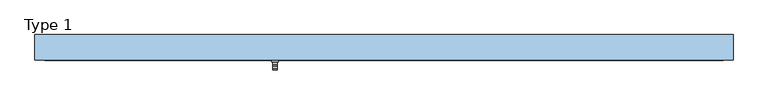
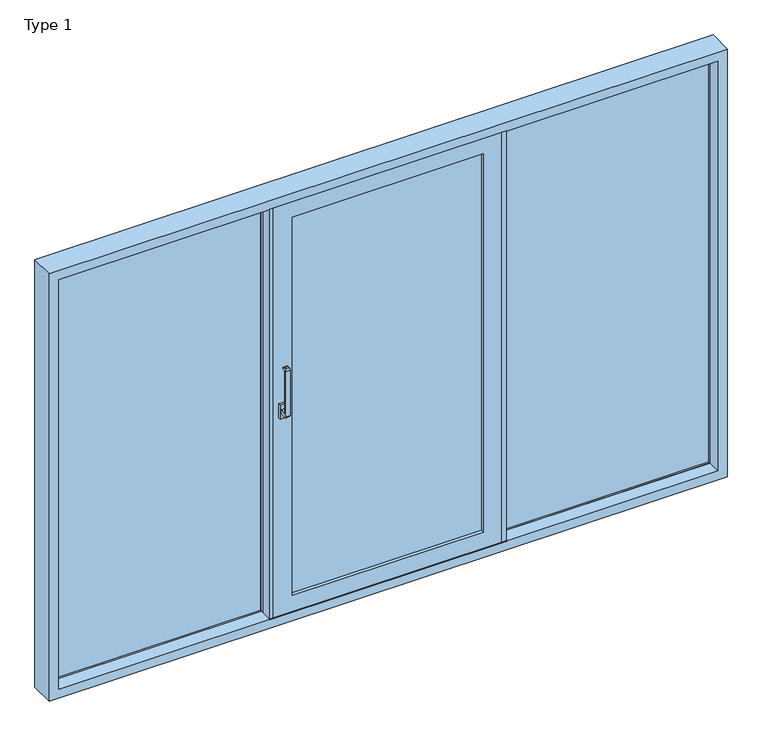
"""IFC4 building model written with IfcOpenShell, lengths in millimetres: window geometry, ETEM_E50_Triple_Lift_Fixed-Sliding-Fixed_HT : Type 1."""

from ifc_helpers import new_model, si_unit, point, frame, frame_2d, origin, place, context, project, spatial, polyline, circle_curve, trimmed, segment, composite_curve, outline, extrude, faceted_brep, source, transform, mapped, element, save


def type_1_260a64b6(model_context):
    return source(origin(), model_context, "Body", "SolidModel", [
        extrude(outline(composite_curve([segment(polyline([(-23.0, 1090.0), (-54.5736848, 1090.0)]), True, "CONTINUOUS"), segment(trimmed(circle_curve(frame_2d((-54.5736848, 1098.4263152)), 8.4263152), [point((-54.5736848, 1090.0))], [point((-63.0, 1098.4263152))], False, "CARTESIAN"), True, "CONTINUOUS"), segment(polyline([(-63.0, 1098.4263152), (-63.0, 1331.5736848)]), True, "CONTINUOUS"), segment(trimmed(circle_curve(frame_2d((-54.5736848, 1331.5736848)), 8.4263152), [point((-63.0, 1331.5736848))], [point((-54.5736848, 1340.0))], False, "CARTESIAN"), True, "CONTINUOUS"), segment(polyline([(-54.5736848, 1340.0), (-43.0, 1340.0)]), True, "CONTINUOUS"), segment(trimmed(circle_curve(frame_2d((-43.0, 1335.0)), 5.0), [point((-43.0, 1340.0))], [point((-43.0, 1330.0))], False, "CARTESIAN"), True, "CONTINUOUS"), segment(polyline([(-43.0, 1330.0), (-49.4644661, 1330.0)]), True, "CONTINUOUS"), segment(trimmed(circle_curve(frame_2d((-49.4644661, 1326.4644661)), 3.5355339), [point((-49.4644661, 1330.0))], [point((-53.0, 1326.4644661))], True, "CARTESIAN"), True, "CONTINUOUS"), segment(polyline([(-53.0, 1326.4644661), (-53.0, 1113.5355339)]), True, "CONTINUOUS"), segment(trimmed(circle_curve(frame_2d((-49.4644661, 1113.5355339)), 3.5355339), [point((-53.0, 1113.5355339))], [point((-49.4644661, 1110.0))], True, "CARTESIAN"), True, "CONTINUOUS"), segment(polyline([(-49.4644661, 1110.0), (-23.0, 1110.0), (-23.0, 1090.0)]), True, "CONTINUOUS")], self_intersect=False)), frame((-525.5005038, 0.0, 0.0), z_axis=(1.0, 0.0, 0.0), x_axis=(0.0, 1.0, 0.0)), (0.0, 0.0, 1.0), 20.0),
        extrude(outline(polyline([(-530.5005038, -23.0), (-530.5005038, -10.0), (-500.5005038, -10.0), (-500.5005038, -23.0), (-530.5005038, -23.0)])), frame((0.0, 0.0, 1065.0), z_axis=(0.0, 0.0, 1.0), x_axis=(1.0, 0.0, 0.0)), (0.0, 0.0, 1.0), 70.0),
        extrude(outline(polyline([(576.5002567, -10.0), (556.0002567, -10.0), (556.0002567, 51.0), (576.5002567, 51.0), (576.5002567, -10.0)])), frame((0.0, 0.0, 36.0), z_axis=(0.0, 0.0, 1.0), x_axis=(1.0, 0.0, 0.0)), (0.0, 0.0, 1.0), 2128.0010079),
        extrude(outline(polyline([(464.5002567, 105.0), (485.0002567, 105.0), (485.0002567, 44.0), (464.5002567, 44.0), (464.5002567, 105.0)])), frame((0.0, 0.0, 46.0), z_axis=(0.0, 0.0, 1.0), x_axis=(1.0, 0.0, 0.0)), (0.0, 0.0, 1.0), 2108.0),
        extrude(outline(polyline([(576.5002567, 89.0390342), (1604.0, 89.0390342), (1604.0, 84.0390342), (576.5002567, 84.0390342), (576.5002567, 89.0390342)])), frame((0.0, 0.0, 46.0), z_axis=(0.0, 0.0, 1.0), x_axis=(1.0, 0.0, 0.0)), (0.0, 0.0, 1.0), 2108.0),
        extrude(outline(polyline([(576.5002567, 68.0390342), (1604.0, 68.0390342), (1604.0, 63.0390342), (576.5002567, 63.0390342), (576.5002567, 68.0390342)])), frame((0.0, 0.0, 46.0), z_axis=(0.0, 0.0, 1.0), x_axis=(1.0, 0.0, 0.0)), (0.0, 0.0, 1.0), 2108.0),
        extrude(outline(polyline([(-464.5005038, 32.0), (464.5002567, 32.0), (464.5002567, 27.0), (-464.5005038, 27.0), (-464.5005038, 32.0)])), frame((0.0, 0.0, 127.5), z_axis=(0.0, 0.0, 1.0), x_axis=(1.0, 0.0, 0.0)), (0.0, 0.0, 1.0), 1945.0010079),
        extrude(outline(polyline([(-464.5005038, 11.0), (464.5002567, 11.0), (464.5002567, 6.0), (-464.5005038, 6.0), (-464.5005038, 11.0)])), frame((0.0, 0.0, 127.5), z_axis=(0.0, 0.0, 1.0), x_axis=(1.0, 0.0, 0.0)), (0.0, 0.0, 1.0), 1945.0010079),
        faceted_brep([(464.5002567, -10.0, 2072.5010079), (464.5002567, 40.0, 2072.5010079), (464.5002567, 40.0, 127.5), (464.5002567, -10.0, 127.5), (-464.5005038, 40.0, 127.5), (-464.5005038, -10.0, 127.5), (-556.0005038, 40.0, 36.0), (-556.0005038, 40.0, 2164.0010079), (556.0002567, 40.0, 2164.0010079), (556.0002567, 40.0, 36.0), (-464.5005038, 40.0, 2072.5010079), (-464.5005038, -10.0, 2072.5010079), (556.0002567, -10.0, 36.0), (556.0002567, -10.0, 2164.0010079), (-556.0005038, -10.0, 2164.0010079), (-556.0005038, -10.0, 36.0), (556.0002567, -4.5, 2164.0010079), (556.0002567, -4.5, 36.0), (-556.0005038, -4.5, 36.0), (-556.0005038, -4.5, 2164.0010079), (526.8002567, -4.5, 65.2), (526.8002567, -4.5, 2134.8010079), (-526.8005038, -4.5, 2134.8010079), (-526.8005038, -4.5, 65.2), (526.8002567, 34.5, 2134.8010079), (526.8002567, 34.5, 65.2), (-526.8005038, 34.5, 65.2), (-526.8005038, 34.5, 2134.8010079), (556.0002567, 34.5, 36.0), (556.0002567, 34.5, 2164.0010079), (-556.0005038, 34.5, 2164.0010079), (-556.0005038, 34.5, 36.0)], [[[0, 1, 2, 3]], [[3, 2, 4, 5]], [[6, 7, 8, 9], [2, 1, 10, 4]], [[5, 4, 10, 11]], [[12, 13, 14, 15], [5, 11, 0, 3]], [[16, 13, 12, 17]], [[17, 12, 15, 18]], [[18, 15, 14, 19]], [[18, 19, 16, 17], [20, 21, 22, 23]], [[24, 21, 20, 25]], [[25, 20, 23, 26]], [[26, 23, 22, 27]], [[28, 29, 30, 31], [26, 27, 24, 25]], [[8, 29, 28, 9]], [[9, 28, 31, 6]], [[6, 31, 30, 7]], [[11, 10, 1, 0]], [[19, 14, 13, 16]], [[27, 22, 21, 24]], [[7, 30, 29, 8]]]),
        extrude(outline(polyline([(-1604.0, 89.0390342), (-576.5005038, 89.0390342), (-576.5005038, 84.0390342), (-1604.0, 84.0390342), (-1604.0, 89.0390342)])), frame((0.0, 0.0, 46.0), z_axis=(0.0, 0.0, 1.0), x_axis=(1.0, 0.0, 0.0)), (0.0, 0.0, 1.0), 2108.0),
        extrude(outline(polyline([(-1604.0, 68.0390342), (-576.5005038, 68.0390342), (-576.5005038, 63.0390342), (-1604.0, 63.0390342), (-1604.0, 68.0390342)])), frame((0.0, 0.0, 46.0), z_axis=(0.0, 0.0, 1.0), x_axis=(1.0, 0.0, 0.0)), (0.0, 0.0, 1.0), 2108.0),
        extrude(outline(polyline([(-556.0005038, -10.0), (-576.5005038, -10.0), (-576.5005038, 40.0), (-556.0005038, 40.0), (-556.0005038, -10.0)])), frame((0.0, 0.0, 36.0), z_axis=(0.0, 0.0, 1.0), x_axis=(1.0, 0.0, 0.0)), (0.0, 0.0, 1.0), 2128.0010079),
        extrude(outline(polyline([(-464.5005038, 105.0), (-464.5005038, 44.0), (-485.0005038, 44.0), (-485.0005038, 105.0), (-464.5005038, 105.0)])), frame((0.0, 0.0, 46.0), z_axis=(0.0, 0.0, 1.0), x_axis=(1.0, 0.0, 0.0)), (0.0, 0.0, 1.0), 2108.0),
        extrude(outline(polyline([(576.5002567, 105.0), (576.5002567, 55.0), (485.0002567, 55.0), (485.0002567, 60.5), (514.2002567, 60.5), (514.2002567, 99.5), (485.0002567, 99.5), (485.0002567, 105.0), (576.5002567, 105.0)])), frame((0.0, 0.0, 46.0), z_axis=(0.0, 0.0, 1.0), x_axis=(1.0, 0.0, 0.0)), (0.0, 0.0, 1.0), 2108.0),
        extrude(outline(polyline([(-576.5005038, 105.0), (-485.0005038, 105.0), (-485.0005038, 99.5), (-514.2005038, 99.5), (-514.2005038, 60.5), (-485.0005038, 60.5), (-485.0005038, 55.0), (-576.5005038, 55.0), (-576.5005038, 105.0)])), frame((0.0, 0.0, 46.0), z_axis=(0.0, 0.0, 1.0), x_axis=(1.0, 0.0, 0.0)), (0.0, 0.0, 1.0), 2108.0),
        faceted_brep([(1604.0, 55.0, 2154.0), (1604.0, 105.0, 2154.0), (1604.0, 105.0, 46.0), (1604.0, 55.0, 46.0), (1650.0, 105.0, 2200.0), (1650.0, 105.0, 0.0), (-1650.0, 105.0, 0.0), (-1650.0, 105.0, 2200.0), (-1604.0, 105.0, 2154.0), (-1604.0, 105.0, 46.0), (-1604.0, 55.0, 46.0), (-576.5005038, 55.0, 46.0), (-576.5005038, 51.0, 46.0), (-576.5005038, 44.0, 46.0), (576.5002567, 44.0, 46.0), (576.5002567, 51.0, 46.0), (576.5002567, 55.0, 46.0), (1631.7, 55.0, 18.3), (1631.7, 55.0, 2181.7), (-1631.7, 55.0, 2181.7), (-1631.7, 55.0, 18.3), (576.5002567, 55.0, 35.9989921), (-576.5005038, 55.0, 35.9989921), (-1604.0, 55.0, 2154.0), (-576.5005038, 55.0, 2154.0), (-576.5005038, 55.0, 2164.0010079), (576.5002567, 55.0, 2164.0010079), (576.5002567, 55.0, 2154.0), (1631.7, 19.5, 2181.7), (1631.7, 19.5, 18.3), (-1631.7, 19.5, 18.3), (-1631.7, 19.5, 2181.7), (1613.0, 19.5, 37.0), (1613.0, 19.5, 2163.0), (-1613.0, 19.5, 2163.0), (-1613.0, 19.5, 37.0), (1613.0, 31.0, 2163.0), (1613.0, 31.0, 37.0), (-1613.0, 31.0, 37.0), (-1613.0, 31.0, 2163.0), (-1605.0, 31.0, 2155.0), (-1605.0, 31.0, 45.0), (-576.5005038, 31.0, 45.0), (576.5002567, 31.0, 45.0), (1605.0, 31.0, 45.0), (1605.0, 31.0, 2155.0), (576.5002567, 31.0, 2155.0), (-576.5005038, 31.0, 2155.0), (-576.5005038, -1.0, 45.0), (576.5002567, -1.0, 45.0), (1613.0, -1.0, 37.0), (1613.0, -1.0, 2163.0), (-1613.0, -1.0, 2163.0), (-1613.0, -1.0, 37.0), (-1605.0, -1.0, 45.0), (-1605.0, -1.0, 2155.0), (-576.5005038, -1.0, 2155.0), (576.5002567, -1.0, 2155.0), (1605.0, -1.0, 2155.0), (1605.0, -1.0, 45.0), (1613.0, 10.5, 2163.0), (1613.0, 10.5, 37.0), (-1613.0, 10.5, 37.0), (1631.7, 10.5, 18.3), (1631.7, 10.5, 2181.7), (-1631.7, 10.5, 2181.7), (-1631.7, 10.5, 18.3), (-1613.0, 10.5, 2163.0), (1631.7, -12.0, 2181.7), (1631.7, -12.0, 18.3), (-1631.7, -12.0, 18.3), (-1631.7, -12.0, 2181.7), (-1605.0, -12.0, 2155.0), (-1605.0, -12.0, 45.0), (-576.5005038, -12.0, 45.0), (576.5002567, -12.0, 45.0), (1605.0, -12.0, 45.0), (1605.0, -12.0, 2155.0), (576.5002567, -12.0, 2155.0), (-576.5005038, -12.0, 2155.0), (-576.5005038, -15.6, 45.0), (576.5002567, -15.6, 45.0), (1650.0, -15.6, 0.0), (1650.0, -15.6, 2200.0), (-1650.0, -15.6, 2200.0), (-1650.0, -15.6, 0.0), (-576.5005038, -15.6, 46.5), (-1603.5, -15.6, 46.5), (-1603.5, -15.6, 2153.5), (-576.5005038, -15.6, 2153.5), (-576.5005038, -15.6, 2155.0), (576.5002567, -15.6, 2155.0), (576.5002567, -15.6, 2153.5), (1603.5, -15.6, 2153.5), (1603.5, -15.6, 46.5), (576.5002567, -15.6, 46.5), (576.5002567, 51.0, 2154.0), (576.5002567, 44.0, 2154.0), (-576.5005038, 44.0, 2154.0), (-576.5005038, 51.0, 2154.0), (576.5002567, 44.0, 2155.0), (576.5002567, 44.0, 2164.0010079), (-576.5005038, 44.0, 2164.0010079), (-576.5005038, 44.0, 2155.0), (-576.5005038, 44.0, 35.9989921), (-576.5005038, 44.0, 45.0), (-576.5005038, 46.4, 45.0), (-576.5005038, 46.4, 36.3), (-576.5005038, 51.0, 36.3), (-576.5005038, 51.0, 46.5), (576.5002567, 44.0, 35.9989921), (576.5002567, 44.0, 45.0), (576.5002567, 51.0, 46.5), (576.5002567, 51.0, 36.3), (576.5002567, 46.4, 36.3), (576.5002567, 46.4, 45.0), (-1605.0, 46.4, 2155.0), (-1605.0, 46.4, 45.0), (1605.0, 46.4, 45.0), (1605.0, 46.4, 2155.0), (-1603.5, 51.0, 46.5), (-1603.5, 51.0, 2153.5), (1603.5, 51.0, 46.5), (1603.5, 51.0, 2153.5), (-1613.7, 51.0, 36.3), (-1613.7, 51.0, 2163.7), (-576.5005038, 51.0, 2163.7), (-576.5005038, 51.0, 2153.5), (-576.5005038, 46.4, 2155.0), (-576.5005038, 46.4, 2163.7), (-1613.7, 46.4, 2163.7), (-1613.7, 46.4, 36.3), (576.5002567, 51.0, 2153.5), (576.5002567, 51.0, 2163.7), (1613.7, 51.0, 2163.7), (1613.7, 51.0, 36.3), (1613.7, 46.4, 36.3), (1613.7, 46.4, 2163.7), (576.5002567, 46.4, 2163.7), (576.5002567, 46.4, 2155.0)], [[[0, 1, 2, 3]], [[4, 5, 6, 7], [2, 1, 8, 9]], [[3, 2, 9, 10, 11, 12, 13, 14, 15, 16]], [[17, 18, 19, 20], [0, 3, 16, 21, 22, 11, 10, 23, 24, 25, 26, 27]], [[28, 18, 17, 29]], [[29, 17, 20, 30]], [[28, 29, 30, 31], [32, 33, 34, 35]], [[36, 33, 32, 37]], [[37, 32, 35, 38]], [[36, 37, 38, 39], [40, 41, 42, 43, 44, 45, 46, 47]], [[42, 48, 49, 43]], [[50, 51, 52, 53], [54, 55, 56, 57, 58, 59, 49, 48]], [[60, 51, 50, 61]], [[61, 50, 53, 62]], [[63, 64, 65, 66], [60, 61, 62, 67]], [[68, 64, 63, 69]], [[69, 63, 66, 70]], [[68, 69, 70, 71], [72, 73, 74, 75, 76, 77, 78, 79]], [[74, 80, 81, 75]], [[82, 83, 84, 85], [80, 86, 87, 88, 89, 90, 91, 92, 93, 94, 95, 81]], [[83, 82, 5, 4]], [[5, 82, 85, 6]], [[10, 9, 8, 23]], [[30, 20, 19, 31]], [[38, 35, 34, 39]], [[62, 53, 52, 67]], [[70, 66, 65, 71]], [[6, 85, 84, 7]], [[1, 0, 27, 96, 97, 98, 99, 24, 23, 8]], [[18, 28, 31, 19]], [[33, 36, 39, 34]], [[56, 47, 46, 57]], [[51, 60, 67, 52]], [[64, 68, 71, 65]], [[90, 79, 78, 91]], [[83, 4, 7, 84]], [[98, 97, 100, 101, 102, 103]], [[25, 102, 101, 26]], [[22, 104, 105, 106, 107, 108, 12, 11]], [[86, 80, 74, 48, 42, 105, 13, 12, 109]], [[104, 110, 111, 14, 13, 105]], [[95, 112, 15, 14, 111, 43, 49, 75, 81]], [[110, 21, 16, 15, 113, 114, 115, 111]], [[104, 22, 21, 110]], [[116, 117, 41, 40]], [[54, 73, 72, 55]], [[73, 54, 48, 74]], [[117, 106, 105, 42, 41]], [[115, 118, 44, 43, 111]], [[59, 76, 75, 49]], [[76, 59, 58, 77]], [[118, 119, 45, 44]], [[86, 109, 120, 87]], [[87, 120, 121, 88]], [[122, 94, 93, 123]], [[112, 95, 94, 122]], [[124, 125, 126, 99, 127, 121, 120, 109, 12, 108]], [[117, 116, 128, 129, 130, 131, 107, 106]], [[131, 124, 108, 107]], [[124, 131, 130, 125]], [[112, 122, 123, 132, 96, 133, 134, 135, 113, 15]], [[113, 135, 136, 114]], [[114, 136, 137, 138, 139, 119, 118, 115]], [[135, 134, 137, 136]], [[89, 127, 99, 98, 103, 47, 56, 79, 90]], [[55, 72, 79, 56]], [[128, 116, 40, 47, 103]], [[125, 130, 129, 126]], [[127, 89, 88, 121]], [[102, 25, 24, 99, 126, 129, 128, 103]], [[26, 101, 100, 139, 138, 133, 96, 27]], [[92, 91, 78, 57, 46, 100, 97, 96, 132]], [[92, 132, 123, 93]], [[134, 133, 138, 137]], [[119, 139, 100, 46, 45]], [[77, 58, 57, 78]]]),
    ])


if __name__ == "__main__":
    model = new_model("IFC4")
    model_context = context("Model", 3, world=origin())
    ifc_project = project(units=[si_unit("LENGTHUNIT", "METRE", prefix="MILLI")], contexts=[model_context])
    site = spatial("IfcSite", under=ifc_project)
    building = spatial("IfcBuilding", under=site)
    placement = place(None, origin())
    type_1_shape = type_1_260a64b6(model_context)
    element("IfcWindow", 1, ObjectType="ETEM_E50_Triple_Lift_Fixed-Sliding-Fixed_HT : Type 1", at=placement, inside=building, context=model_context, shape_type="MappedRepresentation", body=[
        mapped(type_1_shape, transform((0.0, 0.0, 0.0), x_axis=(1.0, 0.0, 0.0), y_axis=(0.0, 1.0, 0.0), z_axis=(0.0, 0.0, 1.0))),
    ])
    save(model, "model.ifc")
